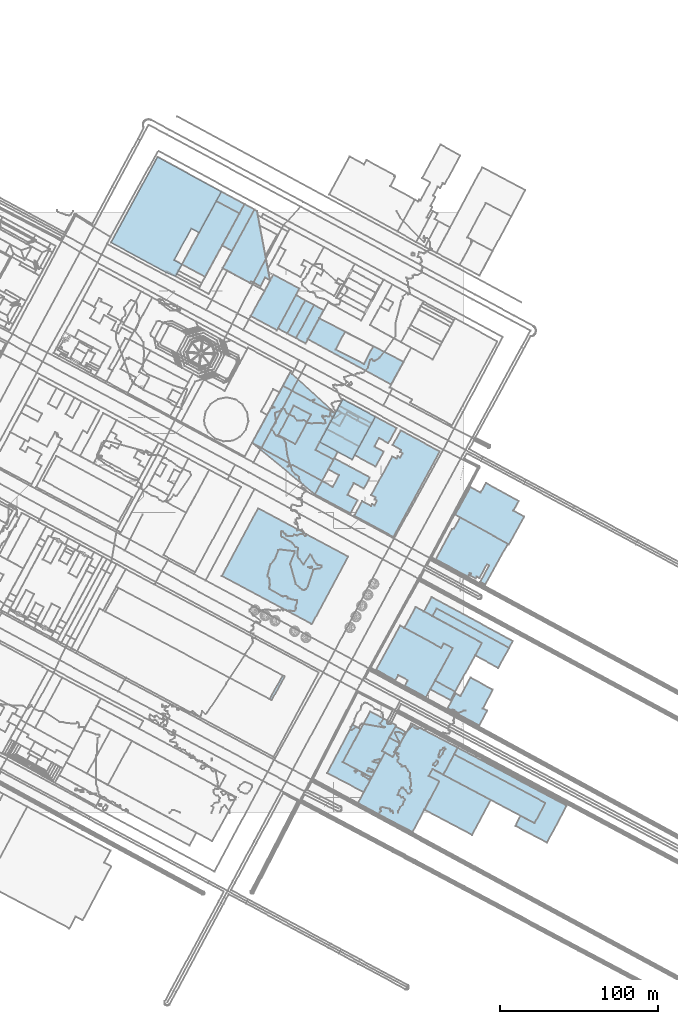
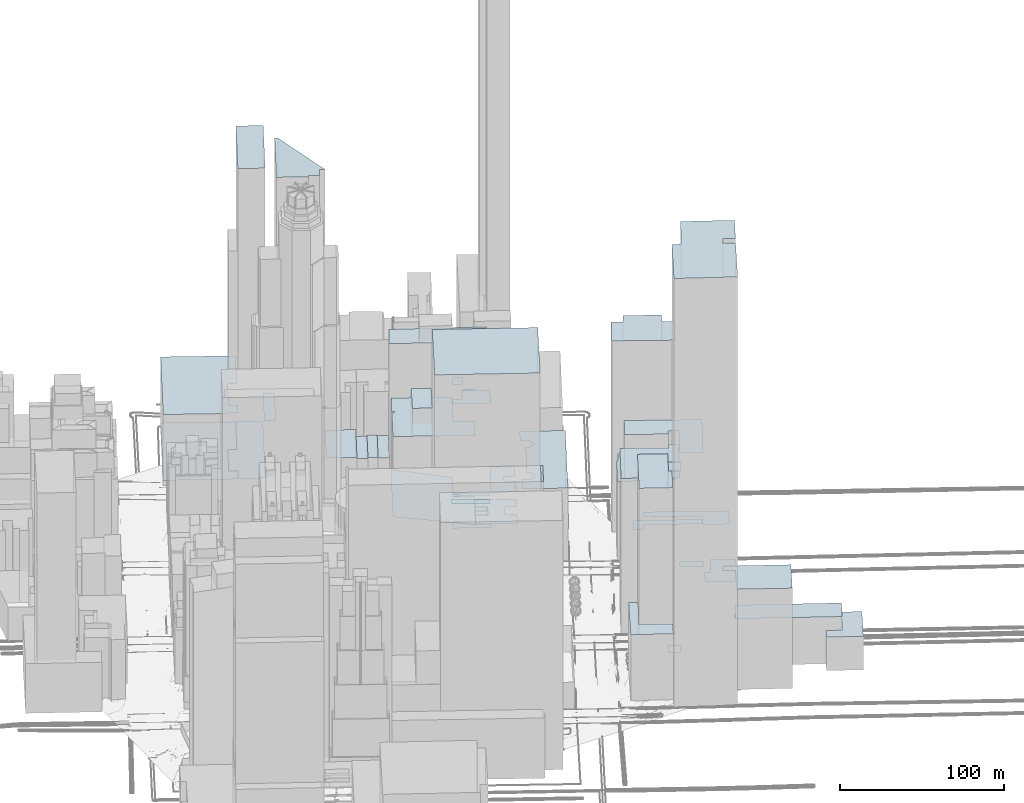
# Not in any storey, part 46 of 80: 42 roofs.
"""IFC4 building model written with IfcOpenShell, lengths in metres."""

import ifcopenshell
import ifcopenshell.guid

model = None  # the IFC model being written
_history = None  # IfcOwnerHistory: only IFC2X3 demands one
_inside = {}  # id of a spatial element -> (the spatial element, [elements in it])
_under = {}  # id of a project, library or spatial element -> (it, [spatial elements below it])
_declared = {}  # id of a project -> (the project, [libraries it declares])
_typed = {}  # id of a type object -> (the type object, [elements of that type])
_made_of = {}  # id of a material, layer set ... -> (it, [elements and type objects made of it])


def new_model(schema):
    """Start an empty IFC model of exactly this schema.

    Asked for "IFC4X3", IfcOpenShell would pick the latest addendum, in which some entities
    have other attributes; the version numbers below select the first issue.
    IFC2X3 requires an IfcOwnerHistory on every rooted entity: one is made here for all.
    """
    global model, _history
    if schema == "IFC4X3":
        model = ifcopenshell.file(schema_version=(4, 3, 0, 0))
    else:
        model = ifcopenshell.file(schema=schema)
    _inside.clear()
    _under.clear()
    _declared.clear()
    _typed.clear()
    _made_of.clear()
    _history = None
    if model.schema == "IFC2X3":
        org = make("IfcOrganization", Name="unknown")
        user = make(
            "IfcPersonAndOrganization",
            ThePerson=make("IfcPerson", FamilyName="unknown"),
            TheOrganization=org,
        )
        app = make(
            "IfcApplication",
            ApplicationDeveloper=org,
            Version="unknown",
            ApplicationFullName="unknown",
            ApplicationIdentifier="unknown",
        )
        _history = make(
            "IfcOwnerHistory",
            OwningUser=user,
            OwningApplication=app,
            ChangeAction="ADDED",
            CreationDate=0,
        )
    return model


def make(cls, **values):
    """One entity of the class cls with the attributes given. An attribute that is None is left unset."""
    return model.create_entity(
        cls, **{name: value for name, value in values.items() if value is not None}
    )


def rooted(cls, **values):
    """An entity with a GlobalId (a new one), such as an element, a storey or a relation."""
    return make(cls, GlobalId=ifcopenshell.guid.new(), OwnerHistory=_history, **values)


def si_unit(unit_type, name, prefix=None):
    """IfcSIUnit, for example si_unit("LENGTHUNIT", "METRE", prefix="MILLI")."""
    return make("IfcSIUnit", UnitType=unit_type, Prefix=prefix, Name=name)


def assignment(units):
    """IfcUnitAssignment: the units of a project."""
    return None if units is None else make("IfcUnitAssignment", Units=units)


def point(xyz):
    """IfcCartesianPoint."""
    return None if xyz is None else make("IfcCartesianPoint", Coordinates=xyz)


def direction(xyz):
    """IfcDirection."""
    return None if xyz is None else make("IfcDirection", DirectionRatios=xyz)


def frame(location, z_axis=None, x_axis=None):
    """IfcAxis2Placement3D, a coordinate frame: its origin and axes. An axis left out is left unset."""
    return make(
        "IfcAxis2Placement3D",
        Location=point(location),
        Axis=direction(z_axis),
        RefDirection=direction(x_axis),
    )


def origin_with_axes():
    """The frame at (0, 0, 0) with the z axis (0, 0, 1) and the x axis (1, 0, 0) written out."""
    return frame((0.0, 0.0, 0.0), z_axis=(0.0, 0.0, 1.0), x_axis=(1.0, 0.0, 0.0))


def place(relative_to, where):
    """IfcLocalPlacement: puts the frame where relative to a parent placement (None: the world)."""
    return make(
        "IfcLocalPlacement", PlacementRelTo=relative_to, RelativePlacement=where
    )


def context(
    kind, dimensions, precision=None, world=None, true_north=None, identifier=None
):
    """IfcGeometricRepresentationContext, for example the 3D "Model" context."""
    return make(
        "IfcGeometricRepresentationContext",
        ContextIdentifier=identifier,
        ContextType=kind,
        CoordinateSpaceDimension=dimensions,
        Precision=precision,
        WorldCoordinateSystem=world,
        TrueNorth=true_north,
    )


def subcontext(parent, identifier, kind, view, scale=None):
    """IfcGeometricRepresentationSubContext, for example "Body" below "Model"."""
    return make(
        "IfcGeometricRepresentationSubContext",
        ContextIdentifier=identifier,
        ContextType=kind,
        ParentContext=parent,
        TargetScale=scale,
        TargetView=view,
    )


def project(units=None, contexts=None):
    """IfcProject with its units and contexts."""
    return rooted(
        "IfcProject",
        Name="project",
        RepresentationContexts=contexts,
        UnitsInContext=assignment(units),
    )


def spatial(cls, under=None, at=None, **own):
    """A site, building, storey or space (cls), placed at a placement, below another one or the project."""
    s = rooted(cls, ObjectPlacement=at, **own)
    if under is not None:
        _under.setdefault(under.id(), (under, []))[1].append(s)
    return s


def point_list(points):
    """IfcCartesianPointList2D or 3D."""
    cls = (
        "IfcCartesianPointList2D" if len(points[0]) == 2 else "IfcCartesianPointList3D"
    )
    return make(cls, CoordList=points)


def polygons(points, faces, closed=None, point_numbers=None):
    """IfcPolygonalFaceSet: a face is its outer loop, then its inner loops; points numbered from 1."""
    made = []
    for loops in faces:
        if len(loops) == 1:
            made.append(make("IfcIndexedPolygonalFace", CoordIndex=loops[0]))
        else:
            made.append(
                make(
                    "IfcIndexedPolygonalFaceWithVoids",
                    CoordIndex=loops[0],
                    InnerCoordIndices=loops[1:],
                )
            )
    return make(
        "IfcPolygonalFaceSet",
        Coordinates=point_list(points),
        Closed=closed,
        Faces=made,
        PnIndex=point_numbers,
    )


def shape(context_of_items, identifier, shape_type, items):
    """IfcShapeRepresentation: the items that make up one representation, for example the "Body"."""
    return make(
        "IfcShapeRepresentation",
        ContextOfItems=context_of_items,
        RepresentationIdentifier=identifier,
        RepresentationType=shape_type,
        Items=items,
    )


def made_of(thing, what):
    """Note that an element or type object is made of a material, layer set ...; save() writes the relation."""
    if what is not None:
        _made_of.setdefault(what.id(), (what, []))[1].append(thing)
    return thing


def element(
    cls,
    number,
    at=None,
    inside=None,
    cuts=None,
    type_object=None,
    material=None,
    context=None,
    identifier="Body",
    shape_type=None,
    held_by="IfcProductDefinitionShape",
    body=None,
    shapes=None,
    **own,
):
    """One element of the class cls, such as IfcWall. Its Tag is "e" and its number.

    at: its placement. inside: the storey or other place that contains it. cuts: it is an
    opening in that element (IfcRelVoidsElement). A single representation is given by context,
    identifier, shape_type and body (its items); several are given by shapes. held_by: the class
    of the entity that holds the representations. save() writes the other relations.
    """
    e = rooted(cls, Tag="e%d" % number, ObjectPlacement=at, **own)
    if body is not None:
        shapes = [shape(context, identifier, shape_type, body)]
    if shapes is not None:
        e.Representation = make(held_by, Representations=shapes)
    if inside is not None:
        _inside.setdefault(inside.id(), (inside, []))[1].append(e)
    if cuts is not None:
        rooted(
            "IfcRelVoidsElement", RelatingBuildingElement=cuts, RelatedOpeningElement=e
        )
    if type_object is not None:
        _typed.setdefault(type_object.id(), (type_object, []))[1].append(e)
    return made_of(e, material)


def aggregate(whole, parts):
    """IfcRelAggregates: a whole, such as a stair, and the parts it consists of."""
    return rooted("IfcRelAggregates", RelatingObject=whole, RelatedObjects=parts)


def save(model, path):
    """Write the relations noted so far, then the file.

    IfcRelAggregates (storeys below a building ...), IfcRelContainedInSpatialStructure (elements
    in a storey), IfcRelDefinesByType, IfcRelAssociatesMaterial and IfcRelDeclares: one each for
    every whole, place, type object, material and project.
    """
    for whole, parts in _under.values():
        aggregate(whole, parts)
    for where, things in _inside.values():
        rooted(
            "IfcRelContainedInSpatialStructure",
            RelatedElements=things,
            RelatingStructure=where,
        )
    for kind, things in _typed.values():
        rooted("IfcRelDefinesByType", RelatedObjects=things, RelatingType=kind)
    for what, things in _made_of.values():
        rooted("IfcRelAssociatesMaterial", RelatedObjects=things, RelatingMaterial=what)
    for by, libraries in _declared.values():
        rooted("IfcRelDeclares", RelatingContext=by, RelatedDefinitions=libraries)
    model.write(path)


model = new_model("IFC4")

# Units and contexts
model_context = context("Model", 3, precision=1e-05, world=origin_with_axes())
body_context = subcontext(model_context, "Body", "Model", "MODEL_VIEW")
ifc_project = project(units=[si_unit("AREAUNIT", "SQUARE_METRE"), si_unit("LENGTHUNIT", "METRE")], contexts=[model_context])

# Sites, building
site_1_placement = place(None, origin_with_axes())
site_1 = spatial("IfcSite", under=ifc_project, at=site_1_placement, Name="Topoexport Site")
site_2_placement = place(site_1_placement, origin_with_axes())
site_2 = spatial("IfcSite", under=site_1, at=site_2_placement, Name="TPX_BATIMENTS")
building_1_placement = place(site_2_placement, frame((366.2645429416, 36.6542156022, 20.5453743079), z_axis=(0.0, 0.0, 1.0), x_axis=(1.0, 0.0, 0.0)))
building_1 = spatial("IfcBuilding", under=site_2, at=building_1_placement, Name="Batiment 0", CompositionType="ELEMENT")

# Roof
roof_1_placement = place(None, frame((366.2645429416, 36.6542156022, 20.5453743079), z_axis=(0.0, 0.0, 1.0), x_axis=(1.0, 0.0, 0.0)))
element("IfcRoof", 1, at=roof_1_placement, inside=building_1, Name="Toiture 0", context=body_context, shape_type="Tessellation", body=[
    polygons([(0.0, 0.0, 25.0), (57.6510256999, -30.6476367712, 25.0), (50.7770092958, -43.4731624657, 25.0), (41.9344578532, -38.7800531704, 25.0), (38.741565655, -45.1344526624, 25.0), (58.6609342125, -55.7269742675, 25.0), (71.0847208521, -32.3451003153, 25.0), (2.2468139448, 4.2339315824, 25.0)], [[[8, 1, 2]], [[3, 4, 5]], [[7, 8, 2]], [[3, 5, 6]], [[6, 7, 2]], [[2, 3, 6]]]),
])

# Building
building_2_placement = place(site_2_placement, frame((351.223740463, 77.768312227, 19.2455414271), z_axis=(0.0, 0.0, 1.0), x_axis=(1.0, 0.0, 0.0)))
building_2 = spatial("IfcBuilding", under=site_2, at=building_2_placement, Name="Batiment 1", CompositionType="ELEMENT")

# Roof
roof_2_placement = place(None, frame((351.223740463, 77.768312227, 19.2455414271), z_axis=(0.0, 0.0, 1.0), x_axis=(1.0, 0.0, 0.0)))
element("IfcRoof", 2, at=roof_2_placement, inside=building_2, Name="Toiture 0", context=body_context, shape_type="Tessellation", body=[
    polygons([(0.0, 0.0, 45.0), (12.6918312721, -6.868784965, 45.0), (15.6589919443, -1.4274175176, 45.0), (2.9670376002, 5.4524630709, 45.0)], [[[4, 1, 2]], [[2, 3, 4]]]),
])

# Building
building_3_placement = place(site_2_placement, frame((362.0676322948, 65.7598579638, 18.6080020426), z_axis=(0.0, 0.0, 1.0), x_axis=(1.0, 0.0, 0.0)))
building_3 = spatial("IfcBuilding", under=site_2, at=building_3_placement, Name="Batiment 2", CompositionType="ELEMENT")

# Roof
roof_3_placement = place(None, frame((362.0676322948, 65.7598579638, 18.6080020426), z_axis=(0.0, 0.0, 1.0), x_axis=(1.0, 0.0, 0.0)))
element("IfcRoof", 3, at=roof_3_placement, inside=building_3, Name="Toiture 0", context=body_context, shape_type="Tessellation", body=[
    polygons([(0.0, 0.0, 38.0999984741), (20.0566144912, -10.8019749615, 38.0999984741), (25.0968062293, -1.4284483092, 38.0999984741), (22.3613697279, 0.0495845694, 38.0999984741), (28.6575999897, 11.7470203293, 38.0999984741), (14.5135056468, 19.3648949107, 38.0999984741), (8.2419351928, 7.7232700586, 38.0999984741), (5.0818940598, 9.4184075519, 38.0999984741)], [[[8, 1, 2]], [[2, 3, 4]], [[4, 5, 6]], [[7, 8, 2]], [[2, 4, 6]], [[6, 7, 2]]]),
])

# Building
building_4_placement = place(site_2_placement, frame((347.1381641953, 127.0369642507, 18.5508047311), z_axis=(0.0, 0.0, 1.0), x_axis=(1.0, 0.0, 0.0)))
building_4 = spatial("IfcBuilding", under=site_2, at=building_4_placement, Name="Batiment 3", CompositionType="ELEMENT")

# Roof
roof_4_placement = place(None, frame((347.1381641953, 127.0369642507, 18.5508047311), z_axis=(0.0, 0.0, 1.0), x_axis=(1.0, 0.0, 0.0)))
element("IfcRoof", 4, at=roof_4_placement, inside=building_4, Name="Toiture 0", context=body_context, shape_type="Tessellation", body=[
    polygons([(0.0, 0.0, 45.0), (5.3954967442, -3.0124802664, 45.0), (8.0571999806, 1.8369054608, 45.0), (53.8061372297, -23.131939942, 45.0), (56.1693942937, -18.7523097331, 45.0), (4.9095321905, 8.9945052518, 45.0)], [[[6, 1, 2]], [[3, 4, 5]], [[6, 2, 3]], [[3, 5, 6]]]),
])

# Building
building_5_placement = place(site_2_placement, frame((352.5336609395, 124.0244839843, 18.1637870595), z_axis=(0.0, 0.0, 1.0), x_axis=(1.0, 0.0, 0.0)))
building_5 = spatial("IfcBuilding", under=site_2, at=building_5_placement, Name="Batiment 4", CompositionType="ELEMENT")

# Roof
roof_5_placement = place(None, frame((352.5336609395, 124.0244839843, 18.1637870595), z_axis=(0.0, 0.0, 1.0), x_axis=(1.0, 0.0, 0.0)))
element("IfcRoof", 5, at=roof_5_placement, inside=building_5, Name="Toiture 0", context=body_context, shape_type="Tessellation", body=[
    polygons([(0.0, 0.0, 55.0), (31.2631371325, -16.9997120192, 55.0), (26.9895697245, -24.7877841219, 55.0), (41.5765562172, -32.7446614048, 55.0), (48.4106404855, -20.1194596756, 55.0), (2.6617032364, 4.8493857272, 55.0)], [[[6, 1, 2]], [[2, 3, 4]], [[5, 6, 2]], [[2, 4, 5]]]),
])

# Building
building_6_placement = place(site_2_placement, frame((334.7408311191, 116.6007819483, 18.3898649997), z_axis=(0.0, 0.0, 1.0), x_axis=(1.0, 0.0, 0.0)))
building_6 = spatial("IfcBuilding", under=site_2, at=building_6_placement, Name="Batiment 5", CompositionType="ELEMENT")

# Roof
roof_6_placement = place(None, frame((334.7408311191, 116.6007819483, 18.3898649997), z_axis=(0.0, 0.0, 1.0), x_axis=(1.0, 0.0, 0.0)))
element("IfcRoof", 6, at=roof_6_placement, inside=building_6, Name="Toiture 0", context=body_context, shape_type="Tessellation", body=[
    polygons([(0.0, 0.0, 127.0), (23.4383723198, -12.7055475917, 127.0), (25.0583062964, -9.7334756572, 127.0), (30.6991136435, -12.7874983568, 127.0), (19.4499469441, -33.3800066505, 127.0), (32.1419012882, -40.259887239, 127.0), (49.0559669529, -9.5760099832, 127.0), (7.2237486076, 13.24030801, 127.0)], [[[8, 1, 2]], [[4, 5, 6]], [[8, 2, 3]], [[4, 6, 7]], [[7, 8, 3]], [[3, 4, 7]]]),
])

# Building
building_7_placement = place(site_2_placement, frame((316.8661601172, 90.1024902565, 18.3898649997), z_axis=(0.0, 0.0, 1.0), x_axis=(1.0, 0.0, 0.0)))
building_7 = spatial("IfcBuilding", under=site_2, at=building_7_placement, Name="Batiment 6", CompositionType="ELEMENT")

# Roof
roof_7_placement = place(None, frame((316.8661601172, 90.1024902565, 18.3898649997), z_axis=(0.0, 0.0, 1.0), x_axis=(1.0, 0.0, 0.0)))
element("IfcRoof", 7, at=roof_7_placement, inside=building_7, Name="Toiture 0", context=body_context, shape_type="Tessellation", body=[
    polygons([(0.0, 0.0, 116.6999969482), (12.2588560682, -6.6629415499, 116.6999969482), (14.07724135, -3.3332932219, 116.6999969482), (20.1343500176, -6.6156371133, 116.6999969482), (18.1999973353, -10.1353758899, 116.6999969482), (31.5123618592, -17.3744372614, 116.6999969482), (48.5737846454, 13.710793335, 116.6999969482), (42.9329772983, 16.7648160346, 116.6999969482), (41.3130433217, 13.7927441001, 116.6999969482), (15.300279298, 27.9227073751, 116.6999969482)], [[[10, 1, 2]], [[4, 5, 6]], [[6, 7, 8]], [[10, 2, 3]], [[6, 8, 9]], [[9, 10, 3]], [[4, 6, 9]], [[9, 3, 4]]]),
])

# Building
building_8_placement = place(site_2_placement, frame((325.3175902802, 47.212952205, 19.8238031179), z_axis=(0.0, 0.0, 1.0), x_axis=(1.0, 0.0, 0.0)))
building_8 = spatial("IfcBuilding", under=site_2, at=building_8_placement, Name="Batiment 7", CompositionType="ELEMENT")

# Roof
roof_8_placement = place(None, frame((325.3175902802, 47.212952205, 19.8238031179), z_axis=(0.0, 0.0, 1.0), x_axis=(1.0, 0.0, 0.0)))
element("IfcRoof", 8, at=roof_8_placement, inside=building_8, Name="Toiture 0", context=body_context, shape_type="Tessellation", body=[
    polygons([(0.0, 0.0, 8.0), (6.8126112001, -3.6399257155, 8.0), (10.7830119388, 3.3674274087, 8.0), (3.893923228, 7.050867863, 8.0)], [[[4, 1, 2]], [[2, 3, 4]]]),
])

# Building
building_9_placement = place(site_2_placement, frame((320.7317155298, 38.6885317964, 19.3320157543), z_axis=(0.0, 0.0, 1.0), x_axis=(1.0, 0.0, 0.0)))
building_9 = spatial("IfcBuilding", under=site_2, at=building_9_placement, Name="Batiment 8", CompositionType="ELEMENT")

# Roof
roof_9_placement = place(None, frame((320.7317155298, 38.6885317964, 19.3320157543), z_axis=(0.0, 0.0, 1.0), x_axis=(1.0, 0.0, 0.0)))
element("IfcRoof", 9, at=roof_9_placement, inside=building_9, Name="Toiture 0", context=body_context, shape_type="Tessellation", body=[
    polygons([(0.0, 0.0, 151.0), (6.8210570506, -3.6398316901, 151.0), (11.3984859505, 4.884494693, 151.0), (4.5858747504, 8.5244204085, 151.0)], [[[4, 1, 2]], [[2, 3, 4]]]),
])

# Building
building_10_placement = place(site_2_placement, frame((295.9848400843, 31.8056900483, 19.3320157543), z_axis=(0.0, 0.0, 1.0), x_axis=(1.0, 0.0, 0.0)))
building_10 = spatial("IfcBuilding", under=site_2, at=building_10_placement, Name="Batiment 9", CompositionType="ELEMENT")

# Roof
roof_10_placement = place(None, frame((295.9848400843, 31.8056900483, 19.3320157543), z_axis=(0.0, 0.0, 1.0), x_axis=(1.0, 0.0, 0.0)))
element("IfcRoof", 10, at=roof_10_placement, inside=building_10, Name="Toiture 0", context=body_context, shape_type="Tessellation", body=[
    polygons([(0.0, 0.0, 151.0), (18.152605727, -9.6807885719, 151.0), (26.5646548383, 5.9159065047, 151.0), (24.7468754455, 6.8828417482, 151.0), (33.5466758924, 23.2501167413, 151.0), (17.2118998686, 31.9639296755, 151.0)], [[[6, 1, 2]], [[2, 3, 4]], [[4, 5, 6]], [[6, 2, 4]]]),
])

# Building
building_11_placement = place(site_2_placement, frame((286.0454970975, 24.8510106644, 18.703520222), z_axis=(0.0, 0.0, 1.0), x_axis=(1.0, 0.0, 0.0)))
building_11 = spatial("IfcBuilding", under=site_2, at=building_11_placement, Name="Batiment 10", CompositionType="ELEMENT")

# Roof
roof_11_placement = place(None, frame((286.0454970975, 24.8510106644, 18.703520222), z_axis=(0.0, 0.0, 1.0), x_axis=(1.0, 0.0, 0.0)))
element("IfcRoof", 11, at=roof_11_placement, inside=building_11, Name="Toiture 0", context=body_context, shape_type="Tessellation", body=[
    polygons([(0.0, 0.0, 50.0), (23.1269540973, -12.0431954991, 50.0), (28.0919487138, -2.7261091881, 50.0), (9.9393429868, 6.9546793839, 50.0), (21.1440946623, 27.7575168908, 50.0), (16.1055235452, 30.5632428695, 50.0)], [[[1, 2, 3]], [[4, 5, 6]], [[1, 3, 4]], [[4, 6, 1]]]),
])

# Building
building_12_placement = place(site_2_placement, frame((305.3985923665, 5.5918232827, 19.5472220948), z_axis=(0.0, 0.0, 1.0), x_axis=(1.0, 0.0, 0.0)))
building_12 = spatial("IfcBuilding", under=site_2, at=building_12_placement, Name="Batiment 11", CompositionType="ELEMENT")

# Roof
roof_12_placement = place(None, frame((305.3985923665, 5.5918232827, 19.5472220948), z_axis=(0.0, 0.0, 1.0), x_axis=(1.0, 0.0, 0.0)))
element("IfcRoof", 12, at=roof_12_placement, inside=building_12, Name="Toiture 0", context=body_context, shape_type="Tessellation", body=[
    polygons([(0.0, 0.0, 320.0), (34.6180123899, -17.9933581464, 320.0), (51.5516846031, 13.93412623, 320.0), (44.841101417, 17.5086047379, 320.0), (47.1626007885, 21.8544235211, 320.0), (53.9919956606, 18.2258198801, 320.0), (63.1127645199, 35.296323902, 320.0), (33.8269836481, 50.6537947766, 320.0), (22.1541802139, 29.4568768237, 320.0), (17.1509025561, 32.1297732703, 320.0)], [[[10, 1, 2]], [[2, 3, 4]], [[5, 6, 7]], [[7, 8, 9]], [[9, 10, 2]], [[5, 7, 9]], [[9, 2, 4]], [[4, 5, 9]]]),
])

# Building
building_13_placement = place(site_2_placement, frame((347.4572556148, 1.796092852, 20.3614833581), z_axis=(0.0, 0.0, 1.0), x_axis=(1.0, 0.0, 0.0)))
building_13 = spatial("IfcBuilding", under=site_2, at=building_13_placement, Name="Batiment 12", CompositionType="ELEMENT")

# Roof
roof_13_placement = place(None, frame((347.4572556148, 1.796092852, 20.3614833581), z_axis=(0.0, 0.0, 1.0), x_axis=(1.0, 0.0, 0.0)))
element("IfcRoof", 13, at=roof_13_placement, inside=building_13, Name="Toiture 0", context=body_context, shape_type="Tessellation", body=[
    polygons([(0.0, 0.0, 74.8000030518), (30.0699170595, -15.9811361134, 74.8000030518), (41.8928147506, 6.0946882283, 74.8000030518), (5.1039375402, 25.6501539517, 74.8000030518), (2.7824381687, 21.3043351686, 74.8000030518), (9.4930213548, 17.7298566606, 74.8000030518)], [[[6, 1, 2]], [[2, 3, 4]], [[4, 5, 6]], [[6, 2, 4]]]),
])

# Building
building_14_placement = place(site_2_placement, frame((359.3905880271, 23.8176431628, 20.6359845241), z_axis=(0.0, 0.0, 1.0), x_axis=(1.0, 0.0, 0.0)))
building_14 = spatial("IfcBuilding", under=site_2, at=building_14_placement, Name="Batiment 13", CompositionType="ELEMENT")

# Roof
roof_14_placement = place(None, frame((359.3905880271, 23.8176431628, 20.6359845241), z_axis=(0.0, 0.0, 1.0), x_axis=(1.0, 0.0, 0.0)))
element("IfcRoof", 14, at=roof_14_placement, inside=building_14, Name="Toiture 0", context=body_context, shape_type="Tessellation", body=[
    polygons([(0.0, 0.0, 35.0), (57.6509642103, -30.6365900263, 35.0), (64.5249806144, -17.8110643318, 35.0), (6.8739549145, 12.8365724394, 35.0)], [[[4, 1, 2]], [[2, 3, 4]]]),
])

# Building
building_15_placement = place(site_2_placement, frame((249.6836035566, 71.5902685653, 39.4467245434), z_axis=(0.0, 0.0, 1.0), x_axis=(1.0, 0.0, 0.0)))
building_15 = spatial("IfcBuilding", under=site_2, at=building_15_placement, Name="Batiment 39", CompositionType="ELEMENT")

# Roof
roof_15_placement = place(None, frame((249.6836035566, 71.5902685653, 39.4467245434), z_axis=(0.0, 0.0, 1.0), x_axis=(1.0, 0.0, 0.0)))
element("IfcRoof", 15, at=roof_15_placement, inside=building_15, Name="Toiture 0", context=body_context, shape_type="Tessellation", body=[
    polygons([(0.0, 0.0, 128.0), (1.2910926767, -0.6844212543, 128.0), (9.6089023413, 14.3115828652, 128.0), (8.3176822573, 15.0071034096, 128.0)], [[[4, 1, 2]], [[2, 3, 4]]]),
])

# Building
building_16_placement = place(site_2_placement, frame((219.5112298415, 149.4213804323, 19.4237571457), z_axis=(0.0, 0.0, 1.0), x_axis=(1.0, 0.0, 0.0)))
building_16 = spatial("IfcBuilding", under=site_2, at=building_16_placement, Name="Batiment 40", CompositionType="ELEMENT")

# Roof
roof_16_placement = place(None, frame((219.5112298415, 149.4213804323, 19.4237571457), z_axis=(0.0, 0.0, 1.0), x_axis=(1.0, 0.0, 0.0)))
element("IfcRoof", 16, at=roof_16_placement, inside=building_16, Name="Toiture 0", context=body_context, shape_type="Tessellation", body=[
    polygons([(0.0, 0.0, 191.0), (56.8882083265, -30.5132920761, 191.0), (79.8162954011, 12.2086158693, 191.0), (22.9281798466, 42.7328309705, 191.0)], [[[4, 1, 2]], [[2, 3, 4]]]),
])

# Building
building_17_placement = place(site_2_placement, frame((238.5657352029, 233.4317503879, 16.8303387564), z_axis=(0.0, 0.0, 1.0), x_axis=(1.0, 0.0, 0.0)))
building_17 = spatial("IfcBuilding", under=site_2, at=building_17_placement, Name="Batiment 124", CompositionType="ELEMENT")

# Roof
roof_17_placement = place(None, frame((238.5657352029, 233.4317503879, 16.8303387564), z_axis=(0.0, 0.0, 1.0), x_axis=(1.0, 0.0, 0.0)))
element("IfcRoof", 17, at=roof_17_placement, inside=building_17, Name="Toiture 0", context=body_context, shape_type="Tessellation", body=[
    polygons([(0.0, 0.0, 30.0), (39.6892356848, -32.423071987, 30.0), (54.2336192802, -5.5639508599, 30.0), (42.7234641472, 0.6192596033, 30.0), (52.5160379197, 18.7078011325, 30.0), (24.1716147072, 44.6569637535, 30.0)], [[[6, 1, 2]], [[2, 3, 4]], [[4, 5, 6]], [[6, 2, 4]]]),
])

# Building
building_18_placement = place(site_2_placement, frame((238.5657352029, 233.4317503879, 16.8288003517), z_axis=(0.0, 0.0, 1.0), x_axis=(1.0, 0.0, 0.0)))
building_18 = spatial("IfcBuilding", under=site_2, at=building_18_placement, Name="Batiment 125", CompositionType="ELEMENT")

# Roof
roof_18_placement = place(None, frame((238.5657352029, 233.4317503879, 16.8288003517), z_axis=(0.0, 0.0, 1.0), x_axis=(1.0, 0.0, 0.0)))
element("IfcRoof", 18, at=roof_18_placement, inside=building_18, Name="Toiture 0", context=body_context, shape_type="Tessellation", body=[
    polygons([(0.0, 0.0, 90.0), (23.8036133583, -12.9458392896, 90.0), (22.5444502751, -15.0033068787, 90.0), (25.6386092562, -13.9458941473, 90.0), (44.2262175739, -24.0546749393, 90.0), (51.6324175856, -10.5347354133, 90.0), (40.0549929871, -4.3745082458, 90.0), (52.5160379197, 18.7078011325, 90.0), (38.7491765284, 25.8639517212, 90.0), (39.5570742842, 27.5275912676, 90.0), (37.0929847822, 26.7328570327, 90.0), (19.5537404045, 35.9878752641, 90.0), (12.610114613, 23.3393253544, 90.0), (14.2581221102, 22.4481148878, 90.0), (11.841957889, 21.887094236, 90.0)], [[[15, 1, 2]], [[2, 3, 4]], [[4, 5, 6]], [[7, 8, 9]], [[9, 10, 11]], [[11, 12, 13]], [[14, 15, 2]], [[2, 4, 6]], [[7, 9, 11]], [[11, 13, 14]], [[2, 6, 7]], [[7, 11, 14]], [[14, 2, 7]]]),
])

# Building
building_19_placement = place(site_2_placement, frame((255.1464477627, 238.3653204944, 18.4349327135), z_axis=(0.0, 0.0, 1.0), x_axis=(1.0, 0.0, 0.0)))
building_19 = spatial("IfcBuilding", under=site_2, at=building_19_placement, Name="Batiment 126", CompositionType="ELEMENT")

# Roof
roof_19_placement = place(None, frame((255.1464477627, 238.3653204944, 18.4349327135), z_axis=(0.0, 0.0, 1.0), x_axis=(1.0, 0.0, 0.0)))
element("IfcRoof", 19, at=roof_19_placement, inside=building_19, Name="Toiture 0", context=body_context, shape_type="Tessellation", body=[
    polygons([(0.0, 0.0, 100.5999984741), (10.8206467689, -5.6916724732, 100.5999984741), (20.6914610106, 12.9306667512, 100.5999984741), (9.8708329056, 18.6223246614, 100.5999984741)], [[[4, 1, 2]], [[2, 3, 4]]]),
])

# Building
building_20_placement = place(site_2_placement, frame((281.2891993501, 234.0510099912, 16.9743140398), z_axis=(0.0, 0.0, 1.0), x_axis=(1.0, 0.0, 0.0)))
building_20 = spatial("IfcBuilding", under=site_2, at=building_20_placement, Name="Batiment 127", CompositionType="ELEMENT")

# Roof
roof_20_placement = place(None, frame((281.2891993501, 234.0510099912, 16.9743140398), z_axis=(0.0, 0.0, 1.0), x_axis=(1.0, 0.0, 0.0)))
element("IfcRoof", 20, at=roof_20_placement, inside=building_20, Name="Toiture 0", context=body_context, shape_type="Tessellation", body=[
    polygons([(0.0, 0.0, 12.0), (20.548297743, -11.0296043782, 12.0), (24.9775825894, -2.8400815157, 12.0), (4.43774046, 8.1896087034, 12.0)], [[[4, 1, 2]], [[2, 3, 4]]]),
])

# Building
building_21_placement = place(site_2_placement, frame((288.3298169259, 247.0670920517, 18.7313016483), z_axis=(0.0, 0.0, 1.0), x_axis=(1.0, 0.0, 0.0)))
building_21 = spatial("IfcBuilding", under=site_2, at=building_21_placement, Name="Batiment 128", CompositionType="ELEMENT")

# Roof
roof_21_placement = place(None, frame((288.3298169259, 247.0670920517, 18.7313016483), z_axis=(0.0, 0.0, 1.0), x_axis=(1.0, 0.0, 0.0)))
element("IfcRoof", 21, at=roof_21_placement, inside=building_21, Name="Toiture 0", context=body_context, shape_type="Tessellation", body=[
    polygons([(0.0, 0.0, 101.0), (5.5893839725, -2.9991613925, 101.0), (9.3741480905, 3.9949121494, 101.0), (3.7847676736, 6.9940706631, 101.0)], [[[4, 1, 2]], [[2, 3, 4]]]),
])

# Building
building_22_placement = place(site_2_placement, frame((266.3530254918, 299.6136626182, 20.7337095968), z_axis=(0.0, 0.0, 1.0), x_axis=(1.0, 0.0, 0.0)))
building_22 = spatial("IfcBuilding", under=site_2, at=building_22_placement, Name="Batiment 129", CompositionType="ELEMENT")

# Roof
roof_22_placement = place(None, frame((266.3530254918, 299.6136626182, 20.7337095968), z_axis=(0.0, 0.0, 1.0), x_axis=(1.0, 0.0, 0.0)))
element("IfcRoof", 22, at=roof_22_placement, inside=building_22, Name="Toiture 0", context=body_context, shape_type="Tessellation", body=[
    polygons([(0.0, 0.0, 20.2999992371), (6.0824874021, -3.3043014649, 20.2999992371), (17.4959425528, 17.6674815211, 20.2999992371), (11.3880168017, 20.9825795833, 20.2999992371)], [[[4, 1, 2]], [[2, 3, 4]]]),
])

# Building
building_23_placement = place(site_2_placement, frame((273.8050706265, 299.0342517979, 19.1231456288), z_axis=(0.0, 0.0, 1.0), x_axis=(1.0, 0.0, 0.0)))
building_23 = spatial("IfcBuilding", under=site_2, at=building_23_placement, Name="Batiment 132", CompositionType="ELEMENT")

# Roof
roof_23_placement = place(None, frame((273.8050706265, 299.0342517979, 19.1231456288), z_axis=(0.0, 0.0, 1.0), x_axis=(1.0, 0.0, 0.0)))
element("IfcRoof", 23, at=roof_23_placement, inside=building_23, Name="Toiture 0", context=body_context, shape_type="Tessellation", body=[
    polygons([(0.0, 0.0, 105.0), (52.5953372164, -28.7420789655, 105.0), (60.4982423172, -14.3947384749, 105.0), (7.2580721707, 13.1851425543, 105.0)], [[[4, 1, 2]], [[2, 3, 4]]]),
])

# Building
building_24_placement = place(site_2_placement, frame((297.9268132, 251.4975866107, 44.1625825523), z_axis=(0.0, 0.0, 1.0), x_axis=(1.0, 0.0, 0.0)))
building_24 = spatial("IfcBuilding", under=site_2, at=building_24_placement, Name="Batiment 138", CompositionType="ELEMENT")

# Roof
roof_24_placement = place(None, frame((297.9268132, 251.4975866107, 44.1625825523), z_axis=(0.0, 0.0, 1.0), x_axis=(1.0, 0.0, 0.0)))
element("IfcRoof", 24, at=roof_24_placement, inside=building_24, Name="Toiture 0", context=body_context, shape_type="Tessellation", body=[
    polygons([(0.0, 0.0, 64.0), (7.1354708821, -3.8360285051, 64.0), (8.0608818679, -2.115506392, 64.0), (0.933852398, 1.7206194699, 64.0)], [[[4, 1, 2]], [[2, 3, 4]]]),
])

# Building
building_25_placement = place(site_2_placement, frame((293.6269824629, 256.8432308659, 18.9579737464), z_axis=(0.0, 0.0, 1.0), x_axis=(1.0, 0.0, 0.0)))
building_25 = spatial("IfcBuilding", under=site_2, at=building_25_placement, Name="Batiment 139", CompositionType="ELEMENT")

# Roof
roof_25_placement = place(None, frame((293.6269824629, 256.8432308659, 18.9579737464), z_axis=(0.0, 0.0, 1.0), x_axis=(1.0, 0.0, 0.0)))
element("IfcRoof", 25, at=roof_25_placement, inside=building_25, Name="Toiture 0", context=body_context, shape_type="Tessellation", body=[
    polygons([(0.0, 0.0, 4.0), (20.5398148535, -11.0296681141, 4.0), (22.8372318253, -6.7951607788, 4.0), (2.2972956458, 4.2456016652, 4.0)], [[[4, 1, 2]], [[2, 3, 4]]]),
])

# Building
building_26_placement = place(site_2_placement, frame((292.1145845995, 254.0611627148, 18.8063007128), z_axis=(0.0, 0.0, 1.0), x_axis=(1.0, 0.0, 0.0)))
building_26 = spatial("IfcBuilding", under=site_2, at=building_26_placement, Name="Batiment 140", CompositionType="ELEMENT")

# Roof
roof_26_placement = place(None, frame((292.1145845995, 254.0611627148, 18.8063007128), z_axis=(0.0, 0.0, 1.0), x_axis=(1.0, 0.0, 0.0)))
element("IfcRoof", 26, at=roof_26_placement, inside=building_26, Name="Toiture 0", context=body_context, shape_type="Tessellation", body=[
    polygons([(0.0, 0.0, 12.0), (5.5893804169, -2.9991585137, 12.0), (5.8122286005, -2.5635761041, 12.0), (20.7796774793, -10.6049936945, 12.0), (22.0522127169, -8.2475999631, 12.0), (1.5123978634, 2.782068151, 12.0)], [[[6, 1, 2]], [[3, 4, 5]], [[6, 2, 3]], [[3, 5, 6]]]),
])

# Building
building_27_placement = place(site_2_placement, frame((285.7269398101, 242.2406186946, 17.7274277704), z_axis=(0.0, 0.0, 1.0), x_axis=(1.0, 0.0, 0.0)))
building_27 = spatial("IfcBuilding", under=site_2, at=building_27_placement, Name="Batiment 141", CompositionType="ELEMENT")

# Roof
roof_27_placement = place(None, frame((285.7269398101, 242.2406186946, 17.7274277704), z_axis=(0.0, 0.0, 1.0), x_axis=(1.0, 0.0, 0.0)))
element("IfcRoof", 27, at=roof_27_placement, inside=building_27, Name="Toiture 0", context=body_context, shape_type="Tessellation", body=[
    polygons([(0.0, 0.0, 91.4000015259), (20.5398421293, -11.0296902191, 91.4000015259), (27.1673222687, 1.2155503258, 91.4000015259), (12.1998733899, 9.2569679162, 91.4000015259), (8.1922610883, 1.8273119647, 91.4000015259), (2.6028771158, 4.8264733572, 91.4000015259)], [[[6, 1, 2]], [[2, 3, 4]], [[5, 6, 2]], [[2, 4, 5]]]),
])

# Building
building_28_placement = place(site_2_placement, frame((281.2891993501, 234.0510099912, 16.9743140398), z_axis=(0.0, 0.0, 1.0), x_axis=(1.0, 0.0, 0.0)))
building_28 = spatial("IfcBuilding", under=site_2, at=building_28_placement, Name="Batiment 142", CompositionType="ELEMENT")

# Roof
roof_28_placement = place(None, frame((281.2891993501, 234.0510099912, 16.9743140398), z_axis=(0.0, 0.0, 1.0), x_axis=(1.0, 0.0, 0.0)))
element("IfcRoof", 28, at=roof_28_placement, inside=building_28, Name="Toiture 0", context=body_context, shape_type="Tessellation", body=[
    polygons([(0.0, 0.0, 6.0), (20.548297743, -11.0296043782, 6.0), (35.1750149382, 15.9970600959, 6.0), (14.6350787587, 27.0378225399, 6.0)], [[[4, 1, 2]], [[2, 3, 4]]]),
])

# Building
building_29_placement = place(site_2_placement, frame((303.3084719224, 225.7363797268, 17.1584864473), z_axis=(0.0, 0.0, 1.0), x_axis=(1.0, 0.0, 0.0)))
building_29 = spatial("IfcBuilding", under=site_2, at=building_29_placement, Name="Batiment 143", CompositionType="ELEMENT")

# Roof
roof_29_placement = place(None, frame((303.3084719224, 225.7363797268, 17.1584864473), z_axis=(0.0, 0.0, 1.0), x_axis=(1.0, 0.0, 0.0)))
element("IfcRoof", 29, at=roof_29_placement, inside=building_29, Name="Toiture 0", context=body_context, shape_type="Tessellation", body=[
    polygons([(0.0, 0.0, 29.8999996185), (13.3627175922, -7.2385258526, 29.8999996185), (18.4944225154, 2.2470477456, 29.8999996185), (12.598836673, 5.4424640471, 29.8999996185), (15.4662305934, 10.7494256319, 29.8999996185), (21.3872638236, 7.5432057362, 29.8999996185), (26.5521917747, 17.0735816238, 29.8999996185), (13.1557423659, 24.3116903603, 29.8999996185)], [[[1, 2, 3]], [[5, 6, 7]], [[1, 3, 4]], [[5, 7, 8]], [[8, 1, 4]], [[4, 5, 8]]]),
])

# Building
building_30_placement = place(site_2_placement, frame((278.2549708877, 201.0086784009, 15.6757471), z_axis=(0.0, 0.0, 1.0), x_axis=(1.0, 0.0, 0.0)))
building_30 = spatial("IfcBuilding", under=site_2, at=building_30_placement, Name="Batiment 144", CompositionType="ELEMENT")

# Roof
roof_30_placement = place(None, frame((278.2549708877, 201.0086784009, 15.6757471), z_axis=(0.0, 0.0, 1.0), x_axis=(1.0, 0.0, 0.0)))
element("IfcRoof", 30, at=roof_30_placement, inside=building_30, Name="Toiture 0", context=body_context, shape_type="Tessellation", body=[
    polygons([(0.0, 0.0, 31.6000003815), (22.4777859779, -12.1617877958, 31.6000003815), (27.0063104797, -3.7934751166, 31.6000003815), (20.6180660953, -0.3373262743, 31.6000003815), (24.609593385, 7.0255305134, 31.6000003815), (30.9978335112, 3.5693851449, 31.6000003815), (34.7826050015, 10.5634660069, 31.6000003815), (12.3131764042, 22.7364151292, 31.6000003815), (8.5200795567, 15.7311468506, 31.6000003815), (15.3500450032, 12.0358801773, 31.6000003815), (11.3669518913, 4.6731266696, 31.6000003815), (4.536981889, 8.3683970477, 31.6000003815)], [[[12, 1, 2]], [[2, 3, 4]], [[5, 6, 7]], [[7, 8, 9]], [[11, 12, 2]], [[7, 9, 10]], [[10, 11, 2]], [[5, 7, 10]], [[10, 2, 4]], [[4, 5, 10]]]),
])

# Building
building_31_placement = place(site_2_placement, frame((303.2307671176, 187.4548822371, 16.0810150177), z_axis=(0.0, 0.0, 1.0), x_axis=(1.0, 0.0, 0.0)))
building_31 = spatial("IfcBuilding", under=site_2, at=building_31_placement, Name="Batiment 145", CompositionType="ELEMENT")

# Roof
roof_31_placement = place(None, frame((303.2307671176, 187.4548822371, 16.0810150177), z_axis=(0.0, 0.0, 1.0), x_axis=(1.0, 0.0, 0.0)))
element("IfcRoof", 31, at=roof_31_placement, inside=building_31, Name="Toiture 0", context=body_context, shape_type="Tessellation", body=[
    polygons([(0.0, 0.0, 57.0), (24.6276355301, -13.3690300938, 57.0), (53.9161640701, 40.5627141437, 57.0), (29.2885192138, 53.9427467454, 57.0), (24.1811245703, 44.5462660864, 57.0), (29.6519839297, 41.5790599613, 57.0), (28.9577343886, 40.3053169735, 57.0), (30.5208380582, 39.4575443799, 57.0), (29.0497451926, 36.7536647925, 57.0), (27.4866411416, 37.6014376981, 57.0), (26.6272039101, 36.0149079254, 57.0), (23.9513070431, 37.4603469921, 57.0), (10.6788082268, 13.0251545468, 57.0), (13.3548402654, 11.5686098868, 57.0), (12.6853890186, 10.3395664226, 57.0), (14.2400565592, 9.4916920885, 57.0), (12.6699936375, 6.5868231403, 57.0), (11.140776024, 7.4238918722, 57.0), (10.4549602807, 6.1502490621, 57.0), (4.9585038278, 9.1393762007, 57.0)], [[[20, 1, 2]], [[3, 4, 5]], [[6, 7, 8]], [[9, 10, 11]], [[11, 12, 13]], [[14, 15, 16]], [[17, 18, 19]], [[19, 20, 2]], [[3, 5, 6]], [[9, 11, 13]], [[17, 19, 2]], [[3, 6, 8]], [[9, 13, 14]], [[16, 17, 2]], [[2, 3, 8]], [[9, 14, 16]], [[16, 2, 8]], [[8, 9, 16]]]),
])

# Building
building_32_placement = place(site_2_placement, frame((354.5806057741, 159.9086306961, 17.7443665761), z_axis=(0.0, 0.0, 1.0), x_axis=(1.0, 0.0, 0.0)))
building_32 = spatial("IfcBuilding", under=site_2, at=building_32_placement, Name="Batiment 146", CompositionType="ELEMENT")

# Roof
roof_32_placement = place(None, frame((354.5806057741, 159.9086306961, 17.7443665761), z_axis=(0.0, 0.0, 1.0), x_axis=(1.0, 0.0, 0.0)))
element("IfcRoof", 32, at=roof_32_placement, inside=building_32, Name="Toiture 0", context=body_context, shape_type="Tessellation", body=[
    polygons([(0.0, 0.0, 59.5), (20.2430773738, -10.8886351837, 59.5), (21.4989884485, -8.5536292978, 59.5), (22.5353152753, -9.1077698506, 59.5), (21.8992428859, -10.3031231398, 59.5), (25.339599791, -12.150421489, 59.5), (26.0172271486, -10.8990723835, 59.5), (27.7331858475, -11.8227699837, 59.5), (32.40982227, -3.1307145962, 59.5), (33.7605140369, -3.8588264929, 59.5), (28.183275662, -14.2267162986, 59.5), (31.3347213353, -15.9108444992, 59.5), (45.6136333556, 9.8018659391, 59.5), (15.4436623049, 26.458968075, 59.5), (11.6676290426, 19.4427545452, 59.5), (10.3118314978, 19.1605049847, 59.5)], [[[16, 1, 2]], [[4, 5, 6]], [[7, 8, 9]], [[10, 11, 12]], [[13, 14, 15]], [[15, 16, 2]], [[4, 6, 7]], [[10, 12, 13]], [[15, 2, 3]], [[3, 4, 7]], [[9, 10, 13]], [[13, 15, 3]], [[3, 7, 9]], [[9, 13, 3]]]),
])

# Building
building_33_placement = place(site_2_placement, frame((366.8637568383, 188.1071389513, 17.7938249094), z_axis=(0.0, 0.0, 1.0), x_axis=(1.0, 0.0, 0.0)))
building_33 = spatial("IfcBuilding", under=site_2, at=building_33_placement, Name="Batiment 147", CompositionType="ELEMENT")

# Roof
roof_33_placement = place(None, frame((366.8637568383, 188.1071389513, 17.7938249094), z_axis=(0.0, 0.0, 1.0), x_axis=(1.0, 0.0, 0.0)))
element("IfcRoof", 33, at=roof_33_placement, inside=building_33, Name="Toiture 0", context=body_context, shape_type="Tessellation", body=[
    polygons([(0.0, 0.0, 143.0), (33.9506416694, -18.7335846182, 143.0), (43.7072874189, -1.2004133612, 143.0), (36.8338707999, 2.5941615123, 143.0), (40.1741687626, 8.6061127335, 143.0), (19.4860618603, 20.0223811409, 143.0), (16.0878345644, 13.9098440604, 143.0), (9.6986507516, 17.4436317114, 143.0)], [[[8, 1, 2]], [[2, 3, 4]], [[4, 5, 6]], [[7, 8, 2]], [[2, 4, 6]], [[6, 7, 2]]]),
])

# Building
building_34_placement = place(site_2_placement, frame((219.6501998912, 358.1121317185, 21.8344391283), z_axis=(0.0, 0.0, 1.0), x_axis=(1.0, 0.0, 0.0)))
building_34 = spatial("IfcBuilding", under=site_2, at=building_34_placement, Name="Batiment 239", CompositionType="ELEMENT")

# Roof
roof_34_placement = place(None, frame((219.6501998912, 358.1121317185, 21.8344391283), z_axis=(0.0, 0.0, 1.0), x_axis=(1.0, 0.0, 0.0)))
element("IfcRoof", 34, at=roof_34_placement, inside=building_34, Name="Toiture 0", context=body_context, shape_type="Tessellation", body=[
    polygons([(0.0, 0.0, 27.7000007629), (6.2692645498, -3.4020859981, 27.7000007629), (20.4756016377, 22.7535668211, 27.7000007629), (14.1893424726, 26.1665450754, 27.7000007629)], [[[4, 1, 2]], [[2, 3, 4]]]),
])

# Building
building_35_placement = place(site_2_placement, frame((237.8104708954, 313.5923738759, 21.0660999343), z_axis=(0.0, 0.0, 1.0), x_axis=(1.0, 0.0, 0.0)))
building_35 = spatial("IfcBuilding", under=site_2, at=building_35_placement, Name="Batiment 246", CompositionType="ELEMENT")

# Roof
roof_35_placement = place(None, frame((237.8104708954, 313.5923738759, 21.0660999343), z_axis=(0.0, 0.0, 1.0), x_axis=(1.0, 0.0, 0.0)))
element("IfcRoof", 35, at=roof_35_placement, inside=building_35, Name="Toiture 0", context=body_context, shape_type="Tessellation", body=[
    polygons([(0.0, 0.0, 21.3999996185), (16.4722872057, -8.9788194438, 21.3999996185), (30.7199253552, 17.2550822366, 21.3999996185), (14.205605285, 26.2222779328, 21.3999996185)], [[[4, 1, 2]], [[2, 3, 4]]]),
])

# Building
building_36_placement = place(site_2_placement, frame((220.0023122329, 343.8054149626, 21.8574343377), z_axis=(0.0, 0.0, 1.0), x_axis=(1.0, 0.0, 0.0)))
building_36 = spatial("IfcBuilding", under=site_2, at=building_36_placement, Name="Batiment 249", CompositionType="ELEMENT")

# Roof
roof_36_placement = place(None, frame((220.0023122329, 343.8054149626, 21.8574343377), z_axis=(0.0, 0.0, 1.0), x_axis=(1.0, 0.0, 0.0)))
element("IfcRoof", 36, at=roof_36_placement, inside=building_36, Name="Toiture 0", context=body_context, shape_type="Tessellation", body=[
    polygons([(0.0, 0.0, 218.0), (17.4052699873, -9.367684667, 218.0), (18.0171891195, -8.272544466, 218.0), (23.9125292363, -11.4569207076, 218.0), (26.8114971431, -5.9608806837, 218.0), (30.0391795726, -7.6774839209, 218.0), (21.8057455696, 36.1250606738, 218.0), (20.1234892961, 37.0602835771, 218.0)], [[[8, 1, 2]], [[3, 4, 5]], [[5, 6, 7]], [[7, 8, 2]], [[3, 5, 7]], [[7, 2, 3]]]),
])

# Building
building_37_placement = place(site_2_placement, frame((194.2357723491, 346.2924328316, 22.8993147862), z_axis=(0.0, 0.0, 1.0), x_axis=(1.0, 0.0, 0.0)))
building_37 = spatial("IfcBuilding", under=site_2, at=building_37_placement, Name="Batiment 250", CompositionType="ELEMENT")

# Roof
roof_37_placement = place(None, frame((194.2357723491, 346.2924328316, 22.8993147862), z_axis=(0.0, 0.0, 1.0), x_axis=(1.0, 0.0, 0.0)))
element("IfcRoof", 37, at=roof_37_placement, inside=building_37, Name="Toiture 0", context=body_context, shape_type="Tessellation", body=[
    polygons([(0.0, 0.0, 231.0), (14.695507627, -7.911555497, 231.0), (36.3976918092, 32.0425454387, 231.0), (21.7021083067, 39.9651582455, 231.0)], [[[4, 1, 2]], [[2, 3, 4]]]),
])

# Building
building_38_placement = place(site_2_placement, frame((189.3088417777, 348.9551990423, 22.410062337), z_axis=(0.0, 0.0, 1.0), x_axis=(1.0, 0.0, 0.0)))
building_38 = spatial("IfcBuilding", under=site_2, at=building_38_placement, Name="Batiment 251", CompositionType="ELEMENT")

# Roof
roof_38_placement = place(None, frame((189.3088417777, 348.9551990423, 22.410062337), z_axis=(0.0, 0.0, 1.0), x_axis=(1.0, 0.0, 0.0)))
element("IfcRoof", 38, at=roof_38_placement, inside=building_38, Name="Toiture 0", context=body_context, shape_type="Tessellation", body=[
    polygons([(0.0, 0.0, 6.0), (4.9269305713, -2.6627662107, 6.0), (0.8608347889, -10.1485570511, 6.0), (15.5890804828, -17.9709220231, 6.0), (44.530700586, 35.3234777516, 6.0), (29.8769383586, 43.2798772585, 6.0), (15.8109363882, 17.3923517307, 6.0), (10.8841438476, 20.0440098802, 6.0)], [[[8, 1, 2]], [[2, 3, 4]], [[4, 5, 6]], [[7, 8, 2]], [[2, 4, 6]], [[6, 7, 2]]]),
])

# Building
building_39_placement = place(site_2_placement, frame((149.4964624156, 360.1164702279, 22.410062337), z_axis=(0.0, 0.0, 1.0), x_axis=(1.0, 0.0, 0.0)))
building_39 = spatial("IfcBuilding", under=site_2, at=building_39_placement, Name="Batiment 258", CompositionType="ELEMENT")

# Roof
roof_39_placement = place(None, frame((149.4964624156, 360.1164702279, 22.410062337), z_axis=(0.0, 0.0, 1.0), x_axis=(1.0, 0.0, 0.0)))
element("IfcRoof", 39, at=roof_39_placement, inside=building_39, Name="Toiture 0", context=body_context, shape_type="Tessellation", body=[
    polygons([(0.0, 0.0, 6.0), (34.744220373, -18.8585502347, 6.0), (40.6732141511, -21.3098282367, 6.0), (44.7393099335, -13.8240373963, 6.0), (39.8123793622, -11.1612711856, 6.0), (50.6965232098, 8.8827386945, 6.0), (55.6233157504, 6.2310805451, 6.0), (69.6893177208, 32.1186060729, 6.0), (29.3384984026, 54.0315411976, 6.0)], [[[9, 1, 2]], [[2, 3, 4]], [[6, 7, 8]], [[2, 4, 5]], [[6, 8, 9]], [[9, 2, 5]], [[5, 6, 9]]]),
])

# Building
building_40_placement = place(site_2_placement, frame((149.4964624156, 360.1164702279, 22.410062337), z_axis=(0.0, 0.0, 1.0), x_axis=(1.0, 0.0, 0.0)))
building_40 = spatial("IfcBuilding", under=site_2, at=building_40_placement, Name="Batiment 259", CompositionType="ELEMENT")

# Roof
roof_40_placement = place(None, frame((149.4964624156, 360.1164702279, 22.410062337), z_axis=(0.0, 0.0, 1.0), x_axis=(1.0, 0.0, 0.0)))
element("IfcRoof", 40, at=roof_40_placement, inside=building_40, Name="Toiture 0", context=body_context, shape_type="Tessellation", body=[
    polygons([(0.0, 0.0, 55.2000007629), (34.744220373, -18.8585502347, 55.2000007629), (35.0417433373, -18.3110805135, 55.2000007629), (40.6732141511, -21.3098282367, 55.2000007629), (44.7393099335, -13.8240373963, 55.2000007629), (39.8123793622, -11.1612711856, 55.2000007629), (50.6965232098, 8.8827386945, 55.2000007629), (55.6233157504, 6.2310805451, 55.2000007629), (69.6893177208, 32.1186060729, 55.2000007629), (29.3384984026, 54.0315411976, 55.2000007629)], [[[10, 1, 2]], [[3, 4, 5]], [[7, 8, 9]], [[10, 2, 3]], [[3, 5, 6]], [[7, 9, 10]], [[10, 3, 6]], [[6, 7, 10]]]),
])

# Building
building_41_placement = place(site_2_placement, frame((254.9357161, 305.8090938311, 21.0647084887), z_axis=(0.0, 0.0, 1.0), x_axis=(1.0, 0.0, 0.0)))
building_41 = spatial("IfcBuilding", under=site_2, at=building_41_placement, Name="Batiment 264", CompositionType="ELEMENT")

# Roof
roof_41_placement = place(None, frame((254.9357161, 305.8090938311, 21.0647084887), z_axis=(0.0, 0.0, 1.0), x_axis=(1.0, 0.0, 0.0)))
element("IfcRoof", 41, at=roof_41_placement, inside=building_41, Name="Toiture 0", context=body_context, shape_type="Tessellation", body=[
    polygons([(0.0, 0.0, 19.6000003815), (5.9380887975, -3.2282750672, 19.6000003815), (17.3345562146, 17.7543942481, 19.6000003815), (11.3880384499, 20.9825618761, 19.6000003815)], [[[4, 1, 2]], [[2, 3, 4]]]),
])

# Building
building_42_placement = place(site_2_placement, frame((260.8738048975, 302.5808187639, 20.8605523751), z_axis=(0.0, 0.0, 1.0), x_axis=(1.0, 0.0, 0.0)))
building_42 = spatial("IfcBuilding", under=site_2, at=building_42_placement, Name="Batiment 265", CompositionType="ELEMENT")

# Roof
roof_42_placement = place(None, frame((260.8738048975, 302.5808187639, 20.8605523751), z_axis=(0.0, 0.0, 1.0), x_axis=(1.0, 0.0, 0.0)))
element("IfcRoof", 42, at=roof_42_placement, inside=building_42, Name="Toiture 0", context=body_context, shape_type="Tessellation", body=[
    polygons([(0.0, 0.0, 20.5), (5.4792205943, -2.9671561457, 20.5), (16.867237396, 18.0154234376, 20.5), (11.3964674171, 20.9826693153, 20.5)], [[[4, 1, 2]], [[2, 3, 4]]]),
])

save(model, "model.ifc")
